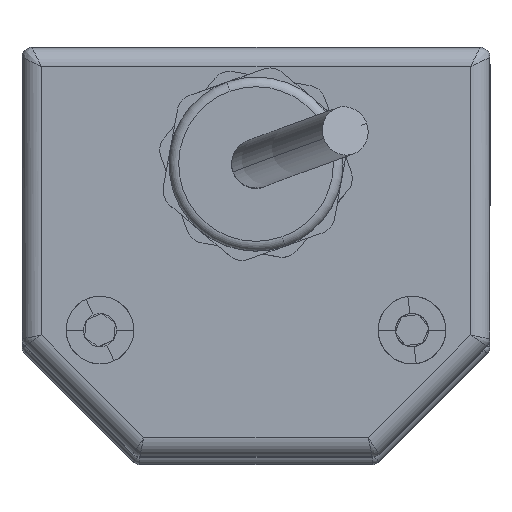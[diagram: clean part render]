
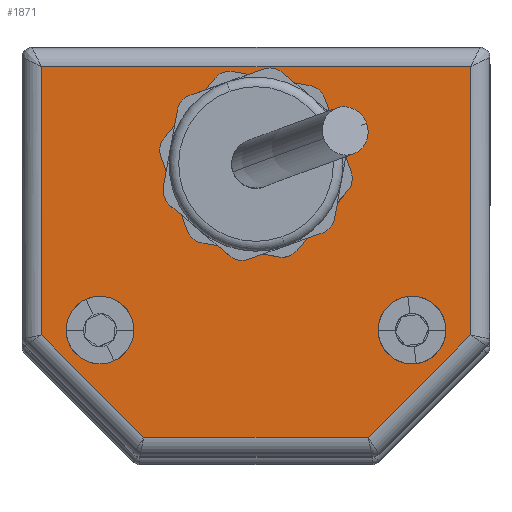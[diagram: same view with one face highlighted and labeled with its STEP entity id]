
A CAD part, top view. The second image highlights one B-rep face of the part: STEP entity #1871.
In plain terms, the highlighted planar face has unit normal (0, 0, 1).
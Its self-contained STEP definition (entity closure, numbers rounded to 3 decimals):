
#355 = VECTOR ( 'NONE', #871, 1000. ) ;
#427 = AXIS2_PLACEMENT_3D ( 'NONE', #8118, #540, #12012 ) ;
#491 = VECTOR ( 'NONE', #7425, 1000. ) ;
#540 = DIRECTION ( 'NONE',  ( 0., 0., 1. ) ) ;
#587 = CARTESIAN_POINT ( 'NONE',  ( 19.47, -27., 8. ) ) ;
#871 = DIRECTION ( 'NONE',  ( 0., -1., 0. ) ) ;
#1037 = FACE_BOUND ( 'NONE', #5797, .T. ) ;
#1158 = VERTEX_POINT ( 'NONE', #12551 ) ;
#1628 = AXIS2_PLACEMENT_3D ( 'NONE', #14557, #10857, #2104 ) ;
#1677 = VERTEX_POINT ( 'NONE', #2839 ) ;
#1772 = DIRECTION ( 'NONE',  ( 0., 0., 1. ) ) ;
#1871 = ADVANCED_FACE ( 'NONE', ( #3321, #15935, #4542, #1037 ), #9515, .T. ) ;
#1965 = CARTESIAN_POINT ( 'NONE',  ( 22., 0., 8. ) ) ;
#2104 = DIRECTION ( 'NONE',  ( 1., 0., 0. ) ) ;
#2220 = DIRECTION ( 'NONE',  ( 0., 0., -1. ) ) ;
#2245 = VECTOR ( 'NONE', #3289, 1000. ) ;
#2274 = EDGE_CURVE ( 'NONE', #14957, #11021, #14636, .T. ) ;
#2321 = LINE ( 'NONE', #6140, #13804 ) ;
#2490 = CARTESIAN_POINT ( 'NONE',  ( -5.75, -10., 8. ) ) ;
#2662 = CIRCLE ( 'NONE', #1628, 3.47 ) ;
#2839 = CARTESIAN_POINT ( 'NONE',  ( -22., -27.5, 8. ) ) ;
#2888 = EDGE_CURVE ( 'NONE', #11021, #14957, #6701, .T. ) ;
#3055 = LINE ( 'NONE', #14528, #15696 ) ;
#3289 = DIRECTION ( 'NONE',  ( 0.707, 0.707, 0. ) ) ;
#3321 = FACE_BOUND ( 'NONE', #11491, .T. ) ;
#3560 = LINE ( 'NONE', #8371, #355 ) ;
#3602 = DIRECTION ( 'NONE',  ( 1., 0., 0. ) ) ;
#4125 = AXIS2_PLACEMENT_3D ( 'NONE', #13521, #2220, #3602 ) ;
#4180 = ORIENTED_EDGE ( 'NONE', *, *, #8384, .F. ) ;
#4236 = EDGE_CURVE ( 'NONE', #6955, #11609, #10961, .T. ) ;
#4292 = DIRECTION ( 'NONE',  ( 1., 0., 0. ) ) ;
#4313 = DIRECTION ( 'NONE',  ( 1., 0., 0. ) ) ;
#4446 = VERTEX_POINT ( 'NONE', #15214 ) ;
#4486 = CARTESIAN_POINT ( 'NONE',  ( -12.53, -27., 8. ) ) ;
#4532 = AXIS2_PLACEMENT_3D ( 'NONE', #9606, #13566, #7309 ) ;
#4542 = FACE_BOUND ( 'NONE', #7695, .T. ) ;
#4554 = CARTESIAN_POINT ( 'NONE',  ( -16., -27., 8. ) ) ;
#4888 = ORIENTED_EDGE ( 'NONE', *, *, #5623, .T. ) ;
#5121 = AXIS2_PLACEMENT_3D ( 'NONE', #10517, #1772, #4292 ) ;
#5194 = EDGE_LOOP ( 'NONE', ( #12584, #13273, #7081, #8377, #13266, #4888 ) ) ;
#5573 = DIRECTION ( 'NONE',  ( 0.707, -0.707, 0. ) ) ;
#5623 = EDGE_CURVE ( 'NONE', #7808, #14746, #7952, .T. ) ;
#5797 = EDGE_LOOP ( 'NONE', ( #6896, #13727 ) ) ;
#6136 = EDGE_CURVE ( 'NONE', #1677, #7808, #3055, .T. ) ;
#6140 = CARTESIAN_POINT ( 'NONE',  ( 0., 0., 8. ) ) ;
#6366 = CARTESIAN_POINT ( 'NONE',  ( -19.47, -27., 8. ) ) ;
#6701 = CIRCLE ( 'NONE', #15884, 5.75 ) ;
#6896 = ORIENTED_EDGE ( 'NONE', *, *, #14554, .F. ) ;
#6955 = VERTEX_POINT ( 'NONE', #4486 ) ;
#7081 = ORIENTED_EDGE ( 'NONE', *, *, #14942, .T. ) ;
#7309 = DIRECTION ( 'NONE',  ( 1., 0., 0. ) ) ;
#7425 = DIRECTION ( 'NONE',  ( 1., 0., 0. ) ) ;
#7450 = DIRECTION ( 'NONE',  ( -1., 0., 0. ) ) ;
#7695 = EDGE_LOOP ( 'NONE', ( #14645, #4180 ) ) ;
#7701 = CARTESIAN_POINT ( 'NONE',  ( 11.5, -38., 8. ) ) ;
#7808 = VERTEX_POINT ( 'NONE', #12652 ) ;
#7952 = LINE ( 'NONE', #9021, #491 ) ;
#8118 = CARTESIAN_POINT ( 'NONE',  ( 16., -27., 8. ) ) ;
#8136 = VERTEX_POINT ( 'NONE', #587 ) ;
#8371 = CARTESIAN_POINT ( 'NONE',  ( -22., 0., 8. ) ) ;
#8377 = ORIENTED_EDGE ( 'NONE', *, *, #11124, .T. ) ;
#8384 = EDGE_CURVE ( 'NONE', #11609, #6955, #2662, .T. ) ;
#8762 = ORIENTED_EDGE ( 'NONE', *, *, #2274, .T. ) ;
#9021 = CARTESIAN_POINT ( 'NONE',  ( 0., -38., 8. ) ) ;
#9515 = PLANE ( 'NONE',  #4532 ) ;
#9528 = DIRECTION ( 'NONE',  ( 0., 0., 1. ) ) ;
#9571 = LINE ( 'NONE', #10821, #2245 ) ;
#9606 = CARTESIAN_POINT ( 'NONE',  ( 0., 0., 8. ) ) ;
#10099 = ORIENTED_EDGE ( 'NONE', *, *, #2888, .T. ) ;
#10517 = CARTESIAN_POINT ( 'NONE',  ( 16., -27., 8. ) ) ;
#10533 = VECTOR ( 'NONE', #13426, 1000. ) ;
#10588 = EDGE_CURVE ( 'NONE', #11478, #16180, #13261, .T. ) ;
#10821 = CARTESIAN_POINT ( 'NONE',  ( 24.75, -24.75, 8. ) ) ;
#10857 = DIRECTION ( 'NONE',  ( 0., 0., 1. ) ) ;
#10863 = CARTESIAN_POINT ( 'NONE',  ( 5.75, -10., 8. ) ) ;
#10961 = CIRCLE ( 'NONE', #15925, 3.47 ) ;
#11021 = VERTEX_POINT ( 'NONE', #10863 ) ;
#11124 = EDGE_CURVE ( 'NONE', #4446, #1677, #3560, .T. ) ;
#11478 = VERTEX_POINT ( 'NONE', #12472 ) ;
#11491 = EDGE_LOOP ( 'NONE', ( #10099, #8762 ) ) ;
#11609 = VERTEX_POINT ( 'NONE', #6366 ) ;
#11660 = CARTESIAN_POINT ( 'NONE',  ( 22., 0., 8. ) ) ;
#12012 = DIRECTION ( 'NONE',  ( 1., 0., 0. ) ) ;
#12472 = CARTESIAN_POINT ( 'NONE',  ( 22., -27.5, 8. ) ) ;
#12551 = CARTESIAN_POINT ( 'NONE',  ( 12.53, -27., 8. ) ) ;
#12584 = ORIENTED_EDGE ( 'NONE', *, *, #12894, .T. ) ;
#12652 = CARTESIAN_POINT ( 'NONE',  ( -11.5, -38., 8. ) ) ;
#12894 = EDGE_CURVE ( 'NONE', #14746, #11478, #9571, .T. ) ;
#13001 = DIRECTION ( 'NONE',  ( 1., 0., 0. ) ) ;
#13241 = CARTESIAN_POINT ( 'NONE',  ( 0., -10., 8. ) ) ;
#13261 = LINE ( 'NONE', #1965, #10533 ) ;
#13266 = ORIENTED_EDGE ( 'NONE', *, *, #6136, .T. ) ;
#13273 = ORIENTED_EDGE ( 'NONE', *, *, #10588, .T. ) ;
#13426 = DIRECTION ( 'NONE',  ( 0., 1., 0. ) ) ;
#13486 = EDGE_CURVE ( 'NONE', #1158, #8136, #15086, .T. ) ;
#13521 = CARTESIAN_POINT ( 'NONE',  ( 0., -10., 8. ) ) ;
#13566 = DIRECTION ( 'NONE',  ( 0., 0., 1. ) ) ;
#13727 = ORIENTED_EDGE ( 'NONE', *, *, #13486, .F. ) ;
#13804 = VECTOR ( 'NONE', #7450, 1000. ) ;
#14035 = CIRCLE ( 'NONE', #427, 3.47 ) ;
#14153 = DIRECTION ( 'NONE',  ( 0., 0., -1. ) ) ;
#14528 = CARTESIAN_POINT ( 'NONE',  ( -24.75, -24.75, 8. ) ) ;
#14554 = EDGE_CURVE ( 'NONE', #8136, #1158, #14035, .T. ) ;
#14557 = CARTESIAN_POINT ( 'NONE',  ( -16., -27., 8. ) ) ;
#14636 = CIRCLE ( 'NONE', #4125, 5.75 ) ;
#14645 = ORIENTED_EDGE ( 'NONE', *, *, #4236, .F. ) ;
#14746 = VERTEX_POINT ( 'NONE', #7701 ) ;
#14942 = EDGE_CURVE ( 'NONE', #16180, #4446, #2321, .T. ) ;
#14957 = VERTEX_POINT ( 'NONE', #2490 ) ;
#15086 = CIRCLE ( 'NONE', #5121, 3.47 ) ;
#15214 = CARTESIAN_POINT ( 'NONE',  ( -22., 0., 8. ) ) ;
#15696 = VECTOR ( 'NONE', #5573, 1000. ) ;
#15884 = AXIS2_PLACEMENT_3D ( 'NONE', #13241, #14153, #13001 ) ;
#15925 = AXIS2_PLACEMENT_3D ( 'NONE', #4554, #9528, #4313 ) ;
#15935 = FACE_OUTER_BOUND ( 'NONE', #5194, .T. ) ;
#16180 = VERTEX_POINT ( 'NONE', #11660 ) ;
